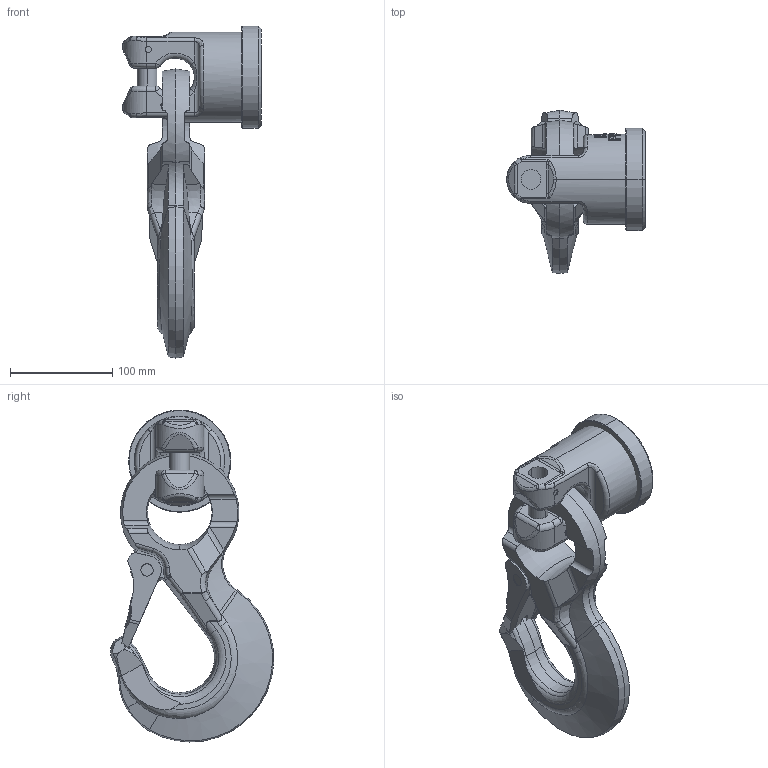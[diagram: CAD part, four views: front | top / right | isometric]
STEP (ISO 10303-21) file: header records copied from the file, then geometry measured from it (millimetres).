
FILE_DESCRIPTION((''),'2;1');
FILE_NAME('001-M31342-P-40_ASM','2018-04-26T',('Anja.Joas'),(''),'PRO/ENGINEER BY PARAMETRIC TECHNOLOGY CORPORATION, 2011490','PRO/ENGINEER BY PARAMETRIC TECHNOLOGY CORPORATION, 2011490','');
FILE_SCHEMA(('CONFIG_CONTROL_DESIGN'));
Length unit declared in the file: millimetre
Products named in the file (6): 001-M31342-P-20; 001-M31342-P-50; 001-M31476-001; 001-M31477-001; 001-M31476-002_ASM; 001-M31342-P-40_ASM
Assembly tree (5 placements, depth 3):
  001-M31342-P-40_ASM
    001-M31342-P-20
    001-M31342-P-50
    001-M31476-002_ASM
      001-M31476-001
      001-M31477-001
Bounding box: 135.5 x 159.73 x 324.79 mm (x, y, z)
Volume: 1295025.9 mm3; surface area: 158816.4 mm2
Topology: 4 solids, 4 shells, 777 faces, 2101 edges, 1338 vertices
Faces by surface type: plane 484, cylinder 121, bspline 60, sphere 42, cone 38, torus 32
Entity records: 28752 total; most frequent: CARTESIAN_POINT 10225, ORIENTED_EDGE 4146, DIRECTION 3393, EDGE_CURVE 2073, VERTEX_POINT 1338, AXIS2_PLACEMENT_3D 1154, VECTOR 1085, LINE 1085
